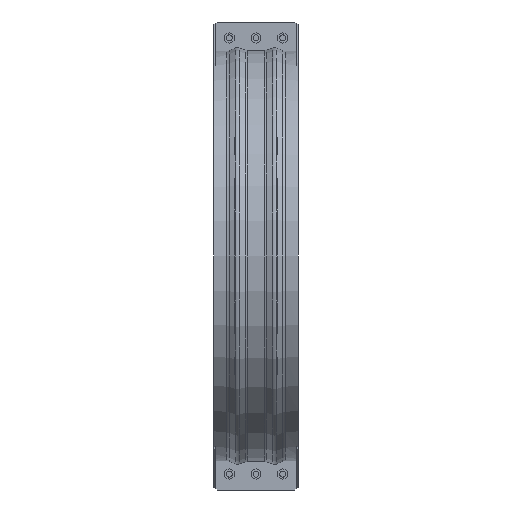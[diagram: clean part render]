
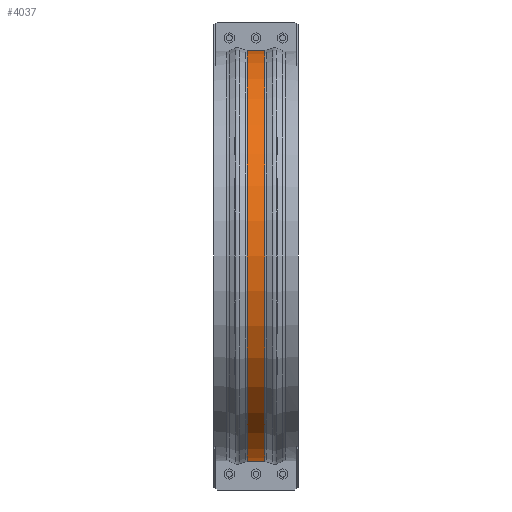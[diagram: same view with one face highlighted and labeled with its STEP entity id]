
A CAD part, front view. The second image highlights one B-rep face of the part: STEP entity #4037.
In plain terms, the highlighted cylindrical face has radius 771.827 mm (diameter 1543.65 mm), a partial arc.
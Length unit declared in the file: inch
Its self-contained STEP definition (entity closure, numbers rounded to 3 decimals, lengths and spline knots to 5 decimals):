
#368=FACE_OUTER_BOUND('',#593,.T.);
#593=EDGE_LOOP('',(#3057,#3058,#3059,#3060));
#910=LINE('',#6241,#1299);
#918=LINE('',#6373,#1307);
#1299=VECTOR('',#4992,0.3937);
#1307=VECTOR('',#5052,0.3937);
#1551=CIRCLE('',#4321,30.38689);
#1553=CIRCLE('',#4325,30.38689);
#1812=VERTEX_POINT('',#6233);
#1813=VERTEX_POINT('',#6240);
#1828=VERTEX_POINT('',#6358);
#1830=VERTEX_POINT('',#6371);
#2259=EDGE_CURVE('',#1813,#1812,#910,.T.);
#2284=EDGE_CURVE('',#1828,#1813,#1551,.T.);
#2288=EDGE_CURVE('',#1830,#1812,#1553,.T.);
#2289=EDGE_CURVE('',#1830,#1828,#918,.T.);
#3057=ORIENTED_EDGE('',*,*,#2259,.T.);
#3058=ORIENTED_EDGE('',*,*,#2288,.F.);
#3059=ORIENTED_EDGE('',*,*,#2289,.T.);
#3060=ORIENTED_EDGE('',*,*,#2284,.T.);
#3704=CYLINDRICAL_SURFACE('',#4324,30.38689);
#4037=ADVANCED_FACE('',(#368),#3704,.T.);
#4321=AXIS2_PLACEMENT_3D('',#6359,#5041,#5042);
#4324=AXIS2_PLACEMENT_3D('',#6370,#5048,#5049);
#4325=AXIS2_PLACEMENT_3D('',#6372,#5050,#5051);
#4992=DIRECTION('',(1.,0.,0.));
#5041=DIRECTION('center_axis',(1.,0.,0.));
#5042=DIRECTION('ref_axis',(0.,0.,-1.));
#5048=DIRECTION('center_axis',(1.,0.,0.));
#5049=DIRECTION('ref_axis',(0.,-1.,0.));
#5050=DIRECTION('center_axis',(1.,0.,0.));
#5051=DIRECTION('ref_axis',(0.,0.,-1.));
#5052=DIRECTION('',(-1.,0.,0.));
#6233=CARTESIAN_POINT('',(1.31451,-0.375,-30.38457));
#6240=CARTESIAN_POINT('',(-1.31451,-0.375,-30.38457));
#6241=CARTESIAN_POINT('',(0.,-0.375,-30.38457));
#6358=CARTESIAN_POINT('',(-1.31451,-0.375,30.38457));
#6359=CARTESIAN_POINT('Origin',(-1.31451,0.,
0.));
#6370=CARTESIAN_POINT('Origin',(0.,0.,0.));
#6371=CARTESIAN_POINT('',(1.31451,-0.375,30.38457));
#6372=CARTESIAN_POINT('Origin',(1.31451,0.,0.));
#6373=CARTESIAN_POINT('',(0.,-0.375,30.38457));
